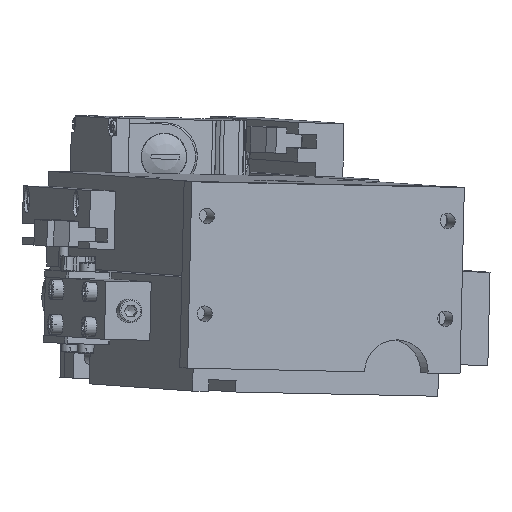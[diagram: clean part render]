
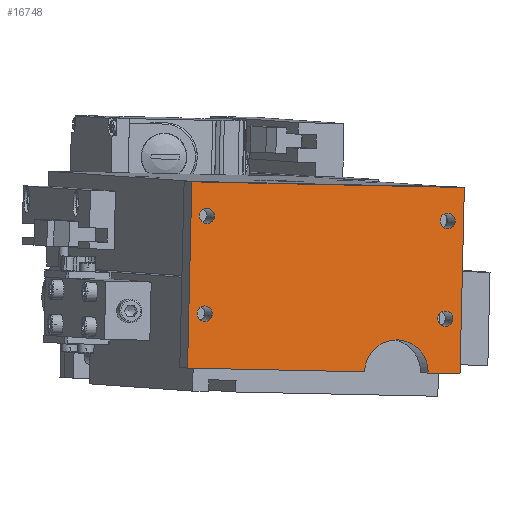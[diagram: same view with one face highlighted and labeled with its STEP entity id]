
A CAD part, front view. The second image highlights one B-rep face of the part: STEP entity #16748.
In plain terms, the highlighted planar face has unit normal (0.222, -0.975, -0.016).
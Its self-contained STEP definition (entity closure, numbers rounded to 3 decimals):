
#16412=CARTESIAN_POINT('',(80.492,-100.339,95.57));
#16413=VERTEX_POINT('',#16412);
#16414=CARTESIAN_POINT('',(77.252,-101.077,95.638));
#16415=DIRECTION('',(-0.222,0.975,0.016));
#16416=DIRECTION('',(0.975,0.222,-0.02));
#16417=AXIS2_PLACEMENT_3D('',#16414,#16415,#16416);
#16418=CIRCLE('',#16417,3.324);
#16419=EDGE_CURVE('',#16413,#16413,#16418,.T.);
#16453=CARTESIAN_POINT('',(-22.843,-123.858,97.736));
#16454=VERTEX_POINT('',#16453);
#16455=CARTESIAN_POINT('',(-26.083,-124.596,97.803));
#16456=DIRECTION('',(-0.222,0.975,0.016));
#16457=DIRECTION('',(0.975,0.222,-0.02));
#16458=AXIS2_PLACEMENT_3D('',#16455,#16456,#16457);
#16459=CIRCLE('',#16458,3.324);
#16460=EDGE_CURVE('',#16454,#16454,#16459,.T.);
#16510=CARTESIAN_POINT('',(81.474,-100.788,137.556));
#16511=VERTEX_POINT('',#16510);
#16512=CARTESIAN_POINT('',(78.234,-101.525,137.624));
#16513=DIRECTION('',(-0.222,0.975,0.016));
#16514=DIRECTION('',(0.975,0.222,-0.02));
#16515=AXIS2_PLACEMENT_3D('',#16512,#16513,#16514);
#16516=CIRCLE('',#16515,3.324);
#16517=EDGE_CURVE('',#16511,#16511,#16516,.T.);
#16559=CARTESIAN_POINT('',(-21.861,-124.307,139.722));
#16560=VERTEX_POINT('',#16559);
#16561=CARTESIAN_POINT('',(-25.101,-125.044,139.79));
#16562=DIRECTION('',(-0.222,0.975,0.016));
#16563=DIRECTION('',(0.975,0.222,-0.02));
#16564=AXIS2_PLACEMENT_3D('',#16561,#16562,#16563);
#16565=CIRCLE('',#16564,3.324);
#16566=EDGE_CURVE('',#16560,#16560,#16565,.T.);
#16576=CARTESIAN_POINT('',(85.397,-100.127,151.976));
#16577=VERTEX_POINT('',#16576);
#16578=CARTESIAN_POINT('',(83.527,-99.273,72.003));
#16579=VERTEX_POINT('',#16578);
#16580=CARTESIAN_POINT('',(85.397,-100.127,151.976));
#16581=DIRECTION('',(-0.023,0.011,-1.));
#16582=VECTOR('',#16581,80.0);
#16583=LINE('',#16580,#16582);
#16584=EDGE_CURVE('',#16577,#16579,#16583,.T.);
#16607=CARTESIAN_POINT('',(69.879,-102.379,72.289));
#16608=VERTEX_POINT('',#16607);
#16609=CARTESIAN_POINT('',(83.527,-99.273,72.003));
#16610=DIRECTION('',(-0.975,-0.222,0.02));
#16611=VECTOR('',#16610,14.);
#16612=LINE('',#16609,#16611);
#16613=EDGE_CURVE('',#16579,#16608,#16612,.T.);
#16631=CARTESIAN_POINT('',(42.583,-108.591,72.861));
#16632=VERTEX_POINT('',#16631);
#16633=CARTESIAN_POINT('',(56.231,-105.485,72.575));
#16634=DIRECTION('',(0.222,-0.975,-0.016));
#16635=DIRECTION('',(0.975,0.222,-0.02));
#16636=AXIS2_PLACEMENT_3D('',#16633,#16634,#16635);
#16637=CIRCLE('',#16636,14.);
#16638=EDGE_CURVE('',#16608,#16632,#16637,.T.);
#16656=CARTESIAN_POINT('',(-33.456,-125.898,74.454));
#16657=VERTEX_POINT('',#16656);
#16658=CARTESIAN_POINT('',(42.583,-108.591,72.861));
#16659=DIRECTION('',(-0.975,-0.222,0.02));
#16660=VECTOR('',#16659,78.);
#16661=LINE('',#16658,#16660);
#16662=EDGE_CURVE('',#16632,#16657,#16661,.T.);
#16680=CARTESIAN_POINT('',(-31.586,-126.752,154.428));
#16681=VERTEX_POINT('',#16680);
#16682=CARTESIAN_POINT('',(-33.456,-125.898,74.454));
#16683=DIRECTION('',(0.023,-0.011,1.));
#16684=VECTOR('',#16683,80.0);
#16685=LINE('',#16682,#16684);
#16686=EDGE_CURVE('',#16657,#16681,#16685,.T.);
#16704=CARTESIAN_POINT('',(-31.586,-126.752,154.428));
#16705=DIRECTION('',(0.975,0.222,-0.02));
#16706=VECTOR('',#16705,120.0);
#16707=LINE('',#16704,#16706);
#16708=EDGE_CURVE('',#16681,#16577,#16707,.T.);
#16723=CARTESIAN_POINT('',(27.153,-112.732,112.503));
#16724=DIRECTION('',(0.222,-0.975,-0.016));
#16725=DIRECTION('',(0.975,0.222,-0.02));
#16726=AXIS2_PLACEMENT_3D('',#16723,#16724,#16725);
#16727=PLANE('',#16726);
#16728=ORIENTED_EDGE('',*,*,#16584,.F.);
#16729=ORIENTED_EDGE('',*,*,#16708,.F.);
#16730=ORIENTED_EDGE('',*,*,#16686,.F.);
#16731=ORIENTED_EDGE('',*,*,#16662,.F.);
#16732=ORIENTED_EDGE('',*,*,#16638,.F.);
#16733=ORIENTED_EDGE('',*,*,#16613,.F.);
#16734=EDGE_LOOP('',(#16728,#16729,#16730,#16731,#16732,#16733));
#16735=FACE_OUTER_BOUND('',#16734,.T.);
#16736=ORIENTED_EDGE('',*,*,#16419,.T.);
#16737=EDGE_LOOP('',(#16736));
#16738=FACE_BOUND('',#16737,.T.);
#16739=ORIENTED_EDGE('',*,*,#16460,.T.);
#16740=EDGE_LOOP('',(#16739));
#16741=FACE_BOUND('',#16740,.T.);
#16742=ORIENTED_EDGE('',*,*,#16517,.T.);
#16743=EDGE_LOOP('',(#16742));
#16744=FACE_BOUND('',#16743,.T.);
#16745=ORIENTED_EDGE('',*,*,#16566,.T.);
#16746=EDGE_LOOP('',(#16745));
#16747=FACE_BOUND('',#16746,.T.);
#16748=ADVANCED_FACE('',(#16735,#16738,#16741,#16744,#16747),#16727,.T.);
